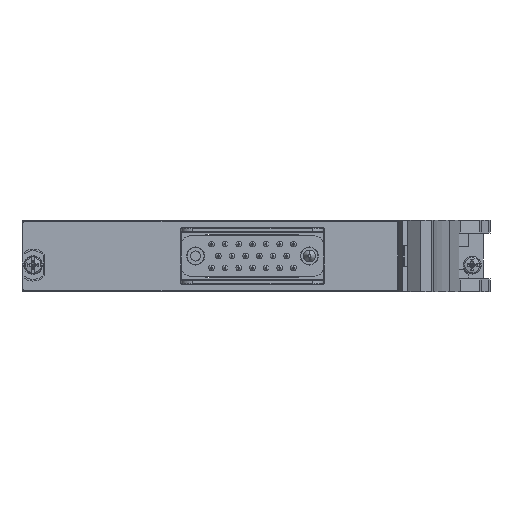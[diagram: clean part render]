
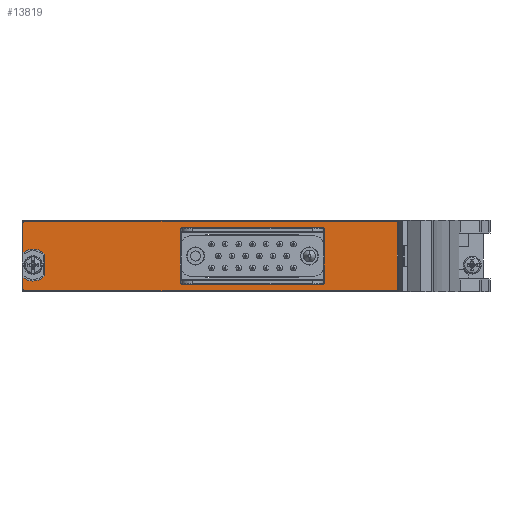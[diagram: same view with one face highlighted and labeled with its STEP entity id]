
A CAD part, left-side view. The second image highlights one B-rep face of the part: STEP entity #13819.
In plain terms, the highlighted planar face has unit normal (-1, 0, 0).
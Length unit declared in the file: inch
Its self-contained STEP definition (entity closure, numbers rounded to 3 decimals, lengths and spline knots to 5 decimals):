
#3266=CARTESIAN_POINT('',(-4.294,0.53465,0.663));
#3267=DIRECTION('',(-1.,0.,0.));
#3268=DIRECTION('',(0.,0.,1.));
#3269=AXIS2_PLACEMENT_3D('',#3266,#3267,#3268);
#3271=DIRECTION('',(0.,1.,0.));
#3272=VECTOR('',#3271,4.07);
#3273=CARTESIAN_POINT('',(-4.294,-3.53535,0.683));
#3274=LINE('',#3273,#3272);
#3275=CARTESIAN_POINT('',(-4.294,-3.53535,0.663));
#3276=DIRECTION('',(-1.,0.,0.));
#3277=DIRECTION('',(0.,-1.,0.));
#3278=AXIS2_PLACEMENT_3D('',#3275,#3276,#3277);
#3280=DIRECTION('',(0.,0.,1.));
#3281=VECTOR('',#3280,0.728);
#3282=CARTESIAN_POINT('',(-4.294,-3.55535,-0.065));
#3283=LINE('',#3282,#3281);
#3284=CARTESIAN_POINT('',(-4.294,-3.53535,-0.065));
#3285=DIRECTION('',(-1.,0.,0.));
#3286=DIRECTION('',(0.,0.,-1.));
#3287=AXIS2_PLACEMENT_3D('',#3284,#3285,#3286);
#3289=DIRECTION('',(0.,-1.,0.));
#3290=VECTOR('',#3289,4.07);
#3291=CARTESIAN_POINT('',(-4.294,0.53465,-0.085));
#3292=LINE('',#3291,#3290);
#3293=CARTESIAN_POINT('',(-4.294,0.53465,-0.065));
#3294=DIRECTION('',(-1.,0.,0.));
#3295=DIRECTION('',(0.,1.,0.));
#3296=AXIS2_PLACEMENT_3D('',#3293,#3294,#3295);
#3298=DIRECTION('',(0.,0.,-1.));
#3299=VECTOR('',#3298,0.12953);
#3300=CARTESIAN_POINT('',(-4.294,0.55465,0.06453));
#3301=LINE('',#3300,#3299);
#3302=CARTESIAN_POINT('',(-4.294,0.44265,0.199));
#3303=DIRECTION('',(1.,0.,0.));
#3304=DIRECTION('',(0.,-0.737,-0.676));
#3305=AXIS2_PLACEMENT_3D('',#3302,#3303,#3304);
#3307=DIRECTION('',(0.,0.,-1.));
#3308=VECTOR('',#3307,0.23651);
#3309=CARTESIAN_POINT('',(-4.294,0.31365,0.31725));
#3310=LINE('',#3309,#3308);
#3311=CARTESIAN_POINT('',(-4.294,0.44265,0.199));
#3312=DIRECTION('',(1.,0.,0.));
#3313=DIRECTION('',(0.,0.64,0.768));
#3314=AXIS2_PLACEMENT_3D('',#3311,#3312,#3313);
#3316=DIRECTION('',(0.,0.,-1.));
#3317=VECTOR('',#3316,0.32953);
#3318=CARTESIAN_POINT('',(-4.294,0.55465,0.663));
#3319=LINE('',#3318,#3317);
#3320=DIRECTION('',(0.,1.,0.));
#3321=VECTOR('',#3320,1.52);
#3322=CARTESIAN_POINT('',(-4.294,-2.72535,0.61558));
#3323=LINE('',#3322,#3321);
#3324=DIRECTION('',(0.,0.,-1.));
#3325=VECTOR('',#3324,0.57258);
#3326=CARTESIAN_POINT('',(-4.294,-1.17535,0.58558));
#3327=LINE('',#3326,#3325);
#3328=DIRECTION('',(0.,-1.,0.));
#3329=VECTOR('',#3328,1.52);
#3330=CARTESIAN_POINT('',(-4.294,-1.20535,-0.017));
#3331=LINE('',#3330,#3329);
#3332=DIRECTION('',(0.,0.,1.));
#3333=VECTOR('',#3332,0.57258);
#3334=CARTESIAN_POINT('',(-4.294,-2.75535,0.013));
#3335=LINE('',#3334,#3333);
#3404=CARTESIAN_POINT('',(-4.294,-2.72535,0.013));
#3405=DIRECTION('',(1.,0.,0.));
#3406=DIRECTION('',(0.,-1.,0.));
#3407=AXIS2_PLACEMENT_3D('',#3404,#3405,#3406);
#3417=CARTESIAN_POINT('',(-4.294,-2.72535,0.58558));
#3418=DIRECTION('',(1.,0.,0.));
#3419=DIRECTION('',(0.,0.,1.));
#3420=AXIS2_PLACEMENT_3D('',#3417,#3418,#3419);
#3422=CARTESIAN_POINT('',(-4.294,-1.20535,0.013));
#3423=DIRECTION('',(1.,0.,0.));
#3424=DIRECTION('',(0.,0.,-1.));
#3425=AXIS2_PLACEMENT_3D('',#3422,#3423,#3424);
#3435=CARTESIAN_POINT('',(-4.294,-1.20535,0.58558));
#3436=DIRECTION('',(1.,0.,0.));
#3437=DIRECTION('',(0.,1.,0.));
#3438=AXIS2_PLACEMENT_3D('',#3435,#3436,#3437);
#9316=CARTESIAN_POINT('',(-4.294,0.53465,0.683));
#9317=CARTESIAN_POINT('',(-4.294,0.55465,0.663));
#9318=VERTEX_POINT('',#9316);
#9319=VERTEX_POINT('',#9317);
#9320=CARTESIAN_POINT('',(-4.294,0.55465,0.33347));
#9321=VERTEX_POINT('',#9320);
#9322=CARTESIAN_POINT('',(-4.294,0.31365,0.31725));
#9323=VERTEX_POINT('',#9322);
#9324=CARTESIAN_POINT('',(-4.294,0.31365,0.08075));
#9325=VERTEX_POINT('',#9324);
#9326=CARTESIAN_POINT('',(-4.294,0.55465,0.06453));
#9327=VERTEX_POINT('',#9326);
#9328=CARTESIAN_POINT('',(-4.294,0.55465,-0.065));
#9329=VERTEX_POINT('',#9328);
#9330=CARTESIAN_POINT('',(-4.294,0.53465,-0.085));
#9331=VERTEX_POINT('',#9330);
#9332=CARTESIAN_POINT('',(-4.294,-3.53535,-0.085));
#9333=VERTEX_POINT('',#9332);
#9334=CARTESIAN_POINT('',(-4.294,-3.55535,-0.065));
#9335=VERTEX_POINT('',#9334);
#9336=CARTESIAN_POINT('',(-4.294,-3.55535,0.663));
#9337=VERTEX_POINT('',#9336);
#9338=CARTESIAN_POINT('',(-4.294,-3.53535,0.683));
#9339=VERTEX_POINT('',#9338);
#9340=CARTESIAN_POINT('',(-4.294,-1.20535,-0.017));
#9341=CARTESIAN_POINT('',(-4.294,-2.72535,-0.017));
#9342=VERTEX_POINT('',#9340);
#9343=VERTEX_POINT('',#9341);
#9344=CARTESIAN_POINT('',(-4.294,-2.75535,0.013));
#9345=CARTESIAN_POINT('',(-4.294,-2.75535,0.58558));
#9346=VERTEX_POINT('',#9344);
#9347=VERTEX_POINT('',#9345);
#9348=CARTESIAN_POINT('',(-4.294,-2.72535,0.61558));
#9349=CARTESIAN_POINT('',(-4.294,-1.20535,0.61558));
#9350=VERTEX_POINT('',#9348);
#9351=VERTEX_POINT('',#9349);
#9352=CARTESIAN_POINT('',(-4.294,-1.17535,0.58558));
#9353=CARTESIAN_POINT('',(-4.294,-1.17535,0.013));
#9354=VERTEX_POINT('',#9352);
#9355=VERTEX_POINT('',#9353);
#13782=CARTESIAN_POINT('',(-4.294,0.44265,0.199));
#13783=DIRECTION('',(-1.,0.,0.));
#13784=DIRECTION('',(0.,0.,1.));
#13785=AXIS2_PLACEMENT_3D('',#13782,#13783,#13784);
#13786=PLANE('',#13785);
#13787=ORIENTED_EDGE('',*,*,#13622,.F.);
#13788=ORIENTED_EDGE('',*,*,#13637,.F.);
#13789=ORIENTED_EDGE('',*,*,#13651,.F.);
#13790=ORIENTED_EDGE('',*,*,#13665,.F.);
#13791=ORIENTED_EDGE('',*,*,#13679,.F.);
#13792=ORIENTED_EDGE('',*,*,#13693,.F.);
#13793=ORIENTED_EDGE('',*,*,#13707,.F.);
#13794=ORIENTED_EDGE('',*,*,#13721,.F.);
#13795=ORIENTED_EDGE('',*,*,#13735,.F.);
#13796=ORIENTED_EDGE('',*,*,#13749,.F.);
#13797=ORIENTED_EDGE('',*,*,#13763,.F.);
#13798=ORIENTED_EDGE('',*,*,#13776,.F.);
#13799=EDGE_LOOP('',(#13787,#13788,#13789,#13790,#13791,#13792,#13793,#13794,
#13795,#13796,#13797,#13798));
#13800=FACE_OUTER_BOUND('',#13799,.F.);
#13802=ORIENTED_EDGE('',*,*,#13801,.T.);
#13804=ORIENTED_EDGE('',*,*,#13803,.F.);
#13806=ORIENTED_EDGE('',*,*,#13805,.T.);
#13808=ORIENTED_EDGE('',*,*,#13807,.F.);
#13810=ORIENTED_EDGE('',*,*,#13809,.T.);
#13812=ORIENTED_EDGE('',*,*,#13811,.F.);
#13814=ORIENTED_EDGE('',*,*,#13813,.T.);
#13816=ORIENTED_EDGE('',*,*,#13815,.F.);
#13817=EDGE_LOOP('',(#13802,#13804,#13806,#13808,#13810,#13812,#13814,#13816));
#13818=FACE_BOUND('',#13817,.F.);
#13819=ADVANCED_FACE('',(#13800,#13818),#13786,.T.);
#3270=CIRCLE('',#3269,0.02);
#3279=CIRCLE('',#3278,0.02);
#3288=CIRCLE('',#3287,0.02);
#3297=CIRCLE('',#3296,0.02);
#3306=CIRCLE('',#3305,0.175);
#3315=CIRCLE('',#3314,0.175);
#3408=CIRCLE('',#3407,0.03);
#3421=CIRCLE('',#3420,0.03);
#3426=CIRCLE('',#3425,0.03);
#3439=CIRCLE('',#3438,0.03);
#13622=EDGE_CURVE('',#9318,#9319,#3270,.T.);
#13637=EDGE_CURVE('',#9339,#9318,#3274,.T.);
#13651=EDGE_CURVE('',#9337,#9339,#3279,.T.);
#13665=EDGE_CURVE('',#9335,#9337,#3283,.T.);
#13679=EDGE_CURVE('',#9333,#9335,#3288,.T.);
#13693=EDGE_CURVE('',#9331,#9333,#3292,.T.);
#13707=EDGE_CURVE('',#9329,#9331,#3297,.T.);
#13721=EDGE_CURVE('',#9327,#9329,#3301,.T.);
#13735=EDGE_CURVE('',#9325,#9327,#3306,.T.);
#13749=EDGE_CURVE('',#9323,#9325,#3310,.T.);
#13763=EDGE_CURVE('',#9321,#9323,#3315,.T.);
#13776=EDGE_CURVE('',#9319,#9321,#3319,.T.);
#13801=EDGE_CURVE('',#9350,#9351,#3323,.T.);
#13803=EDGE_CURVE('',#9354,#9351,#3439,.T.);
#13805=EDGE_CURVE('',#9354,#9355,#3327,.T.);
#13807=EDGE_CURVE('',#9342,#9355,#3426,.T.);
#13809=EDGE_CURVE('',#9342,#9343,#3331,.T.);
#13811=EDGE_CURVE('',#9346,#9343,#3408,.T.);
#13813=EDGE_CURVE('',#9346,#9347,#3335,.T.);
#13815=EDGE_CURVE('',#9350,#9347,#3421,.T.);
